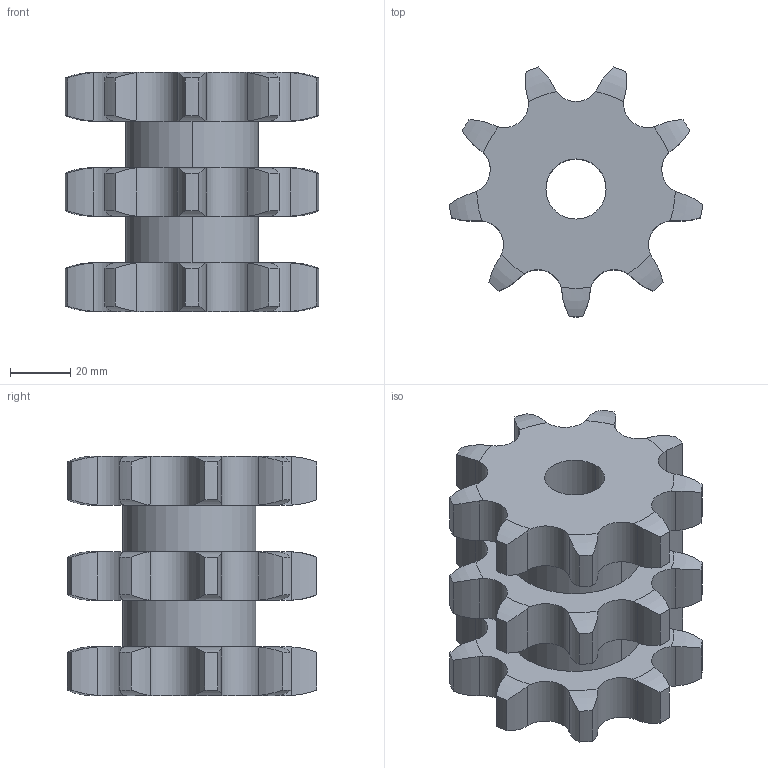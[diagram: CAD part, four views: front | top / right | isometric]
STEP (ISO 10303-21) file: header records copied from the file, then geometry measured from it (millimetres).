
FILE_DESCRIPTION((''),'2;1');
FILE_NAME('500-503-0009_PRT','2021-02-12T',('Brieden'),('Brieden'),'PRO/ENGINEER BY PARAMETRIC TECHNOLOGY CORPORATION, 2010160','PRO/ENGINEER BY PARAMETRIC TECHNOLOGY CORPORATION, 2010160','');
FILE_SCHEMA(('AUTOMOTIVE_DESIGN { 1 0 10303 214 1 1 1 1 }'));
Length unit declared in the file: millimetre
Products named in the file (1): 500-503-0009_PRT
Bounding box: 84.36 x 83.13 x 79.6 mm (x, y, z)
Volume: 204631.1 mm3; surface area: 41689.6 mm2
Topology: 1 solids, 1 shells, 174 faces, 504 edges, 336 vertices
Faces by surface type: cylinder 114, torus 54, plane 6
Entity records: 8110 total; most frequent: CARTESIAN_POINT 2191, ORIENTED_EDGE 1008, DIRECTION 810, PRESENTATION_STYLE_ASSIGNMENT 505, STYLED_ITEM 505, CURVE_STYLE 504, EDGE_CURVE 504, AXIS2_PLACEMENT_3D 348
